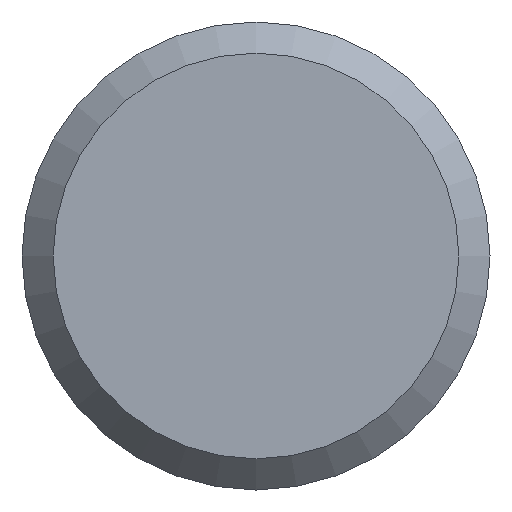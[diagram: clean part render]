
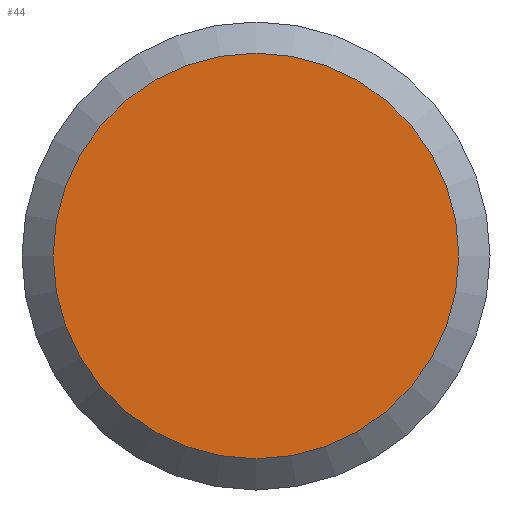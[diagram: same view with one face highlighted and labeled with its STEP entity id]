
A CAD part, left-side view. The second image highlights one B-rep face of the part: STEP entity #44.
In plain terms, the highlighted planar face has unit normal (-1, 0, 0).
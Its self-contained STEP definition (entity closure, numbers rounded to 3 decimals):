
#44 = ADVANCED_FACE( '', ( #95 ), #96, .F. );
#95 = FACE_OUTER_BOUND( '', #156, .T. );
#96 = PLANE( '', #157 );
#156 = EDGE_LOOP( '', ( #217 ) );
#157 = AXIS2_PLACEMENT_3D( '', #218, #219, #220 );
#217 = ORIENTED_EDGE( '', *, *, #290, .F. );
#218 = CARTESIAN_POINT( '', ( -43., 0., 0. ) );
#219 = DIRECTION( '', ( 1., 0., 0. ) );
#220 = DIRECTION( '', ( 0., 0., -1. ) );
#290 = EDGE_CURVE( '', #323, #323, #324, .T. );
#323 = VERTEX_POINT( '', #363 );
#324 = CIRCLE( '', #364, 13. );
#363 = CARTESIAN_POINT( '', ( -43., 0., -13. ) );
#364 = AXIS2_PLACEMENT_3D( '', #405, #406, #407 );
#405 = CARTESIAN_POINT( '', ( -43., 0., 0. ) );
#406 = DIRECTION( '', ( 1., 0., 0. ) );
#407 = DIRECTION( '', ( 0., 0., -1. ) );
